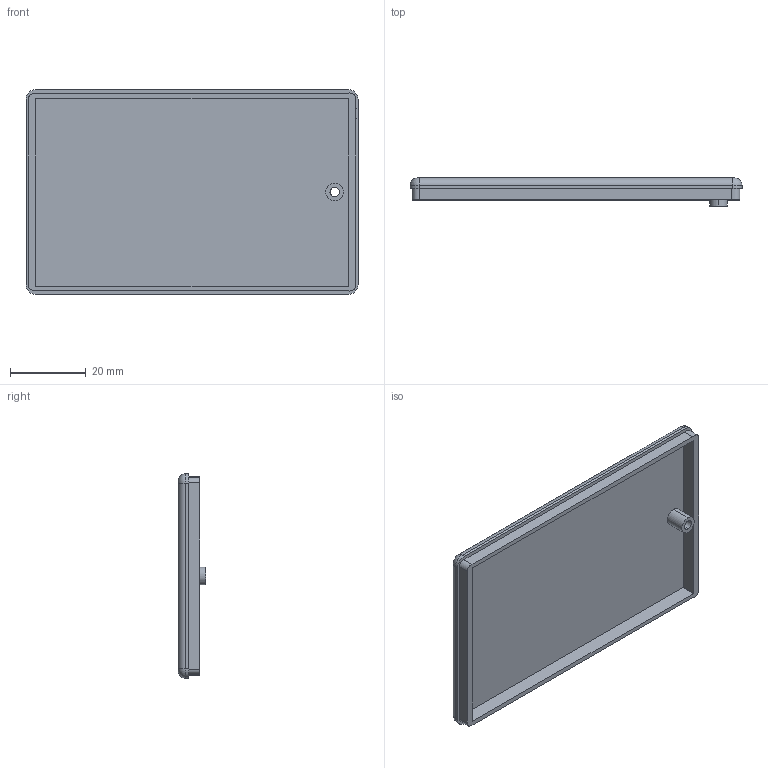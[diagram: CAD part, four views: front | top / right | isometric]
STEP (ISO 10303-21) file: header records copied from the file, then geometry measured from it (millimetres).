
FILE_DESCRIPTION (( 'STEP AP214' ), '1' );
FILE_NAME ('Tapa PP6.STEP', '2016-09-08T14:22:27', ( 'aaa' ), ( '' ), 'SwSTEP 2.0', 'SolidWorks 2013', '' );
FILE_SCHEMA (( 'AUTOMOTIVE_DESIGN' ));
Length unit declared in the file: millimetre
Products named in the file (1): Tapa PP6
Bounding box: 87.9 x 7.4 x 54.2 mm (x, y, z)
Volume: 10644.2 mm3; surface area: 12046.7 mm2
Topology: 1 solids, 1 shells, 50 faces, 126 edges, 80 vertices
Faces by surface type: cylinder 22, plane 22, torus 4, cone 2
Entity records: 1542 total; most frequent: DIRECTION 278, CARTESIAN_POINT 257, ORIENTED_EDGE 252, EDGE_CURVE 126, AXIS2_PLACEMENT_3D 101, VERTEX_POINT 80, LINE 76, VECTOR 76
